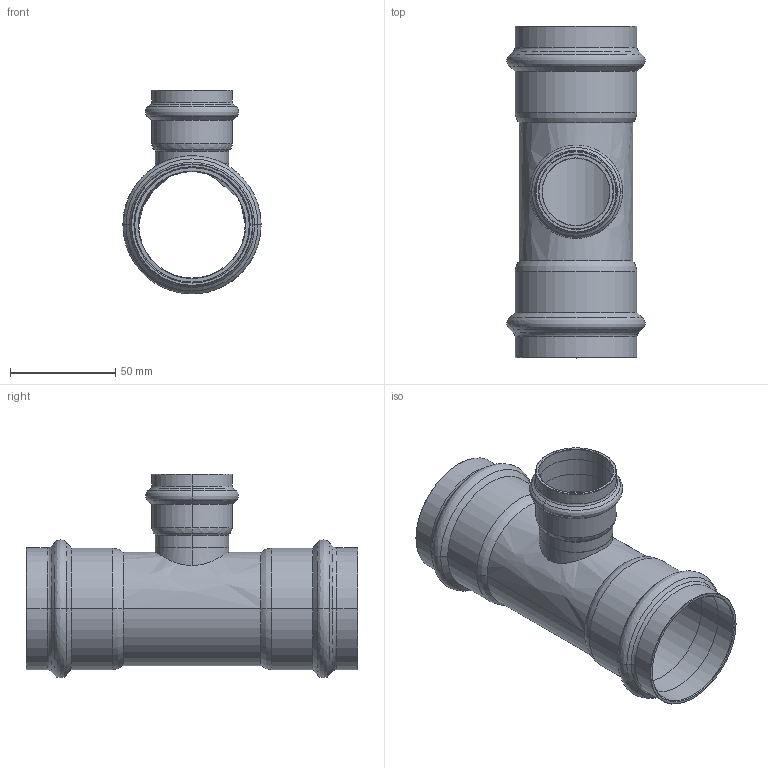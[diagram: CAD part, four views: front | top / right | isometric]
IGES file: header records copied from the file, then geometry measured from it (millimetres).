
Start section: Elysium IGES Interface
Global section: file name: C:\Users\Wallenburg\Desktop\3d modellen sudo\S-Pr VP\SP6130RV\6130RVW543554.igs; native system: CoCreate Modeling 17.00A  17-Jun-2010; preprocessor: CoCreate IGES_3D V2.2; author: Unknown; organization: Unknown; date: 20130117.152150; units: millimetre
Bounding box: 65.68 x 157.73 x 96.89 mm (x, y, z)
Volume: 64287.6 mm3; surface area: 65550.6 mm2
Topology: 1 solids, 1 shells, 128 faces, 262 edges, 144 vertices
Faces by surface type: bspline 128
